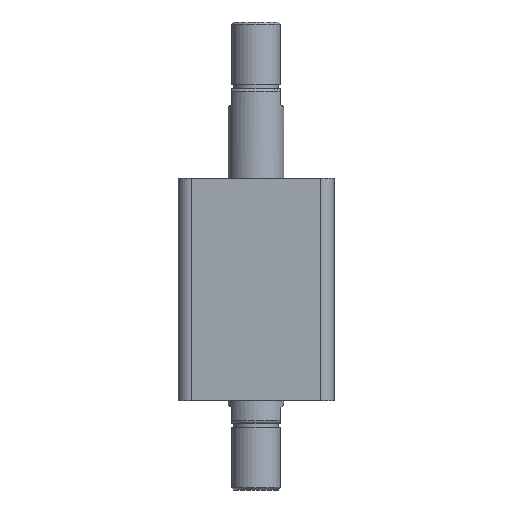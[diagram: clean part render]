
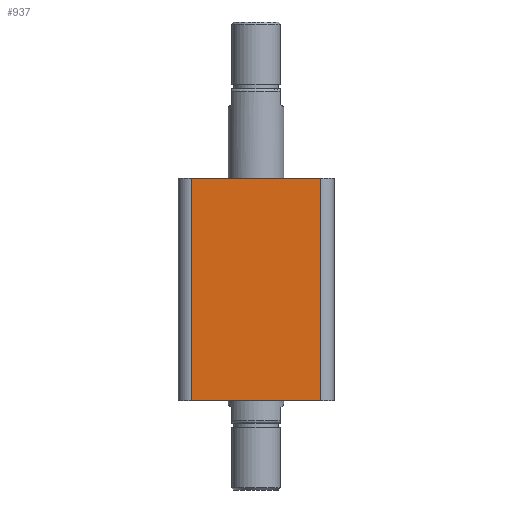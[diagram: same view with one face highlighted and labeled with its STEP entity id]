
A CAD part, front view. The second image highlights one B-rep face of the part: STEP entity #937.
In plain terms, the highlighted planar face has unit normal (0, -1, 0).
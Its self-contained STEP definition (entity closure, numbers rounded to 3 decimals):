
#82 = ORIENTED_EDGE ( 'NONE', *, *, #2948, .F. ) ;
#83 = ORIENTED_EDGE ( 'NONE', *, *, #363, .T. ) ;
#84 = ORIENTED_EDGE ( 'NONE', *, *, #364, .T. ) ;
#85 = ORIENTED_EDGE ( 'NONE', *, *, #365, .T. ) ;
#286 = VERTEX_POINT ( 'NONE', #312 ) ;
#287 = VERTEX_POINT ( 'NONE', #311 ) ;
#294 = DIRECTION ( 'NONE',  ( 0., 0., 1. ) ) ;
#295 = CARTESIAN_POINT ( 'NONE',  ( 29., -35., 100. ) ) ;
#300 = CARTESIAN_POINT ( 'NONE',  ( -35., -35., 0. ) ) ;
#301 = DIRECTION ( 'NONE',  ( 1., 0., 0. ) ) ;
#303 = CARTESIAN_POINT ( 'NONE',  ( -29., -35., 100. ) ) ;
#311 = CARTESIAN_POINT ( 'NONE',  ( 29., -35., 0. ) ) ;
#312 = CARTESIAN_POINT ( 'NONE',  ( -29., -35., 0. ) ) ;
#313 = DIRECTION ( 'NONE',  ( 0., 0., -1. ) ) ;
#363 = EDGE_CURVE ( 'NONE', #2654, #286, #2909, .T. ) ;
#364 = EDGE_CURVE ( 'NONE', #286, #287, #2911, .T. ) ;
#365 = EDGE_CURVE ( 'NONE', #287, #2649, #2905, .T. ) ;
#937 = ADVANCED_FACE ( 'NONE', ( #1266 ), #1880, .F. ) ;
#975 = AXIS2_PLACEMENT_3D ( 'NONE', #1878, #1882, #1883 ) ;
#1146 = EDGE_LOOP ( 'NONE', ( #82, #83, #84, #85 ) ) ;
#1266 = FACE_OUTER_BOUND ( 'NONE', #1146, .T. ) ;
#1379 = LINE ( 'NONE', #2284, #1381 ) ;
#1381 = VECTOR ( 'NONE', #2286, 1000. ) ;
#1878 = CARTESIAN_POINT ( 'NONE',  ( -35., -35., 100. ) ) ;
#1880 = PLANE ( 'NONE',  #975 ) ;
#1882 = DIRECTION ( 'NONE',  ( 0., 1., 0. ) ) ;
#1883 = DIRECTION ( 'NONE',  ( 0., 0., 1. ) ) ;
#2132 = CARTESIAN_POINT ( 'NONE',  ( 29., -35., 100. ) ) ;
#2139 = CARTESIAN_POINT ( 'NONE',  ( -29., -35., 100. ) ) ;
#2284 = CARTESIAN_POINT ( 'NONE',  ( -35., -35., 100. ) ) ;
#2286 = DIRECTION ( 'NONE',  ( 1., 0., 0. ) ) ;
#2649 = VERTEX_POINT ( 'NONE', #2132 ) ;
#2654 = VERTEX_POINT ( 'NONE', #2139 ) ;
#2904 = VECTOR ( 'NONE', #294, 1000. ) ;
#2905 = LINE ( 'NONE', #295, #2904 ) ;
#2906 = VECTOR ( 'NONE', #301, 1000. ) ;
#2908 = VECTOR ( 'NONE', #313, 1000. ) ;
#2909 = LINE ( 'NONE', #303, #2908 ) ;
#2911 = LINE ( 'NONE', #300, #2906 ) ;
#2948 = EDGE_CURVE ( 'NONE', #2654, #2649, #1379, .T. ) ;
